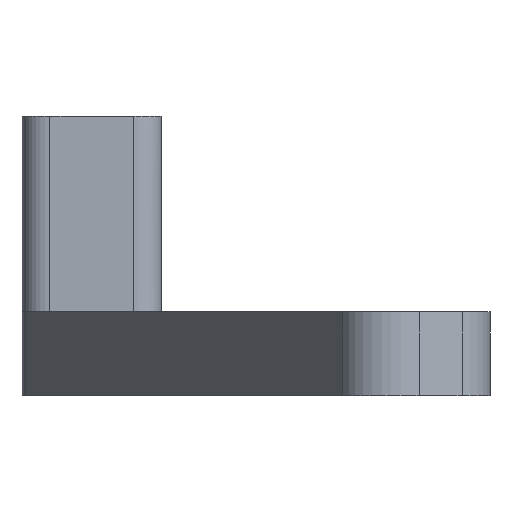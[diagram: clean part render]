
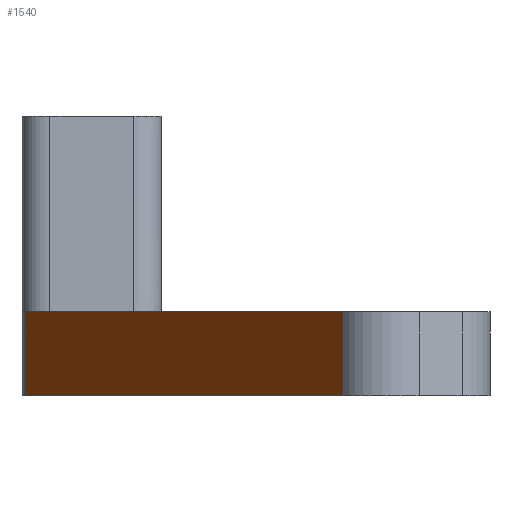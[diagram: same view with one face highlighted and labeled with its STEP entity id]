
A CAD part, left-side view. The second image highlights one B-rep face of the part: STEP entity #1540.
In plain terms, the highlighted planar face has unit normal (-0.5, 0.866, 0).
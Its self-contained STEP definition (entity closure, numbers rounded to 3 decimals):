
#24=PLANE('',#1647);
#98=FACE_OUTER_BOUND('',#178,.T.);
#178=EDGE_LOOP('',(#1241,#1242,#1243,#1244));
#328=LINE('',#2310,#537);
#389=LINE('',#2437,#598);
#390=LINE('',#2440,#599);
#391=LINE('',#2441,#600);
#537=VECTOR('',#1841,10.);
#598=VECTOR('',#1912,10.);
#599=VECTOR('',#1915,10.);
#600=VECTOR('',#1916,10.);
#768=VERTEX_POINT('',#2307);
#769=VERTEX_POINT('',#2309);
#830=VERTEX_POINT('',#2435);
#831=VERTEX_POINT('',#2439);
#928=EDGE_CURVE('',#768,#769,#328,.T.);
#993=EDGE_CURVE('',#769,#830,#389,.T.);
#994=EDGE_CURVE('',#831,#768,#390,.T.);
#995=EDGE_CURVE('',#830,#831,#391,.T.);
#1241=ORIENTED_EDGE('',*,*,#993,.F.);
#1242=ORIENTED_EDGE('',*,*,#928,.F.);
#1243=ORIENTED_EDGE('',*,*,#994,.F.);
#1244=ORIENTED_EDGE('',*,*,#995,.F.);
#1540=ADVANCED_FACE('',(#98),#24,.T.);
#1647=AXIS2_PLACEMENT_3D('',#2438,#1913,#1914);
#1841=DIRECTION('',(0.866,0.5,0.));
#1912=DIRECTION('',(0.,0.,1.));
#1913=DIRECTION('center_axis',(-0.5,0.866,0.));
#1914=DIRECTION('ref_axis',(-0.866,-0.5,0.));
#1915=DIRECTION('',(0.,0.,-1.));
#1916=DIRECTION('',(-0.866,-0.5,0.));
#2307=CARTESIAN_POINT('',(-19.919,-6.5,0.));
#2309=CARTESIAN_POINT('',(-0.232,4.866,0.));
#2310=CARTESIAN_POINT('',(-21.651,-7.5,0.));
#2435=CARTESIAN_POINT('',(-0.232,4.866,3.));
#2437=CARTESIAN_POINT('',(-0.232,4.866,0.));
#2438=CARTESIAN_POINT('Origin',(0.,5.,0.));
#2439=CARTESIAN_POINT('',(-19.919,-6.5,3.));
#2440=CARTESIAN_POINT('',(-19.919,-6.5,0.));
#2441=CARTESIAN_POINT('',(-21.651,-7.5,3.));
